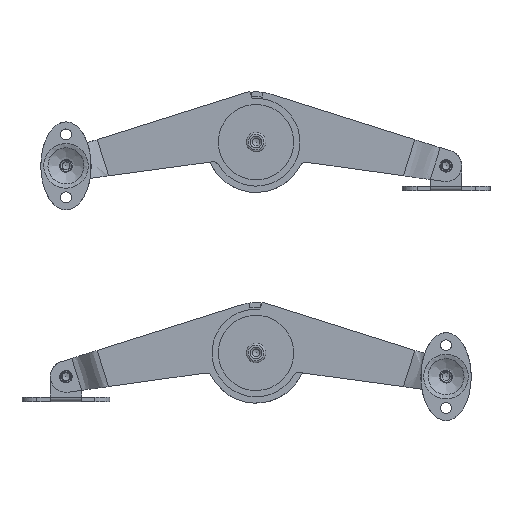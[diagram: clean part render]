
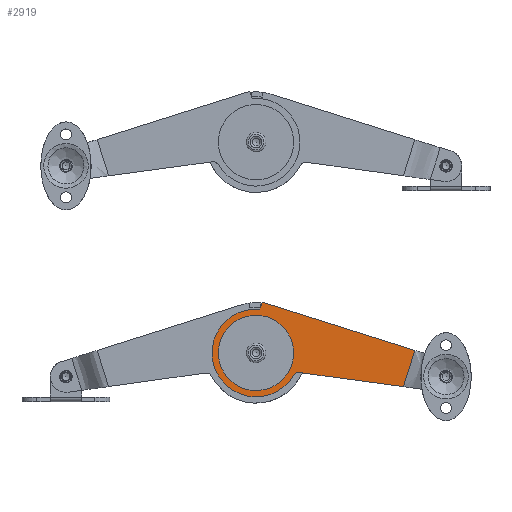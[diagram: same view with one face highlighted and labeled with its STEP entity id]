
A CAD part, front view. The second image highlights one B-rep face of the part: STEP entity #2919.
In plain terms, the highlighted planar face has unit normal (0, -1, 0) as drawn and (0, 0, -1) by its records, which use the part's own axes.
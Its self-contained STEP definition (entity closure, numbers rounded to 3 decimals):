
#445=FACE_BOUND('',#1042,.T.);
#584=CIRCLE('',#3216,2.);
#585=CIRCLE('',#3218,14.);
#588=CIRCLE('',#3222,12.);
#771=FACE_OUTER_BOUND('',#1041,.T.);
#1041=EDGE_LOOP('',(#2557,#2558,#2559,#2560,#2561,#2562));
#1042=EDGE_LOOP('',(#2563));
#1209=LINE('',#5443,#1361);
#1218=LINE('',#5477,#1370);
#1221=LINE('',#5481,#1373);
#1223=LINE('',#5484,#1375);
#1361=VECTOR('',#3944,12.135);
#1370=VECTOR('',#3969,2.325);
#1373=VECTOR('',#3974,33.261);
#1375=VECTOR('',#3978,51.);
#1593=VERTEX_POINT('',#5376);
#1594=VERTEX_POINT('',#5378);
#1595=VERTEX_POINT('',#5382);
#1598=VERTEX_POINT('',#5390);
#1604=VERTEX_POINT('',#5441);
#1605=VERTEX_POINT('',#5442);
#1614=VERTEX_POINT('',#5476);
#1911=EDGE_CURVE('',#1594,#1593,#584,.T.);
#1913=EDGE_CURVE('',#1594,#1595,#585,.T.);
#1917=EDGE_CURVE('',#1598,#1598,#588,.T.);
#1923=EDGE_CURVE('',#1604,#1605,#1209,.T.);
#1937=EDGE_CURVE('',#1595,#1614,#1218,.T.);
#1940=EDGE_CURVE('',#1605,#1593,#1221,.T.);
#1942=EDGE_CURVE('',#1614,#1604,#1223,.T.);
#2557=ORIENTED_EDGE('',*,*,#1942,.F.);
#2558=ORIENTED_EDGE('',*,*,#1937,.F.);
#2559=ORIENTED_EDGE('',*,*,#1913,.F.);
#2560=ORIENTED_EDGE('',*,*,#1911,.T.);
#2561=ORIENTED_EDGE('',*,*,#1940,.F.);
#2562=ORIENTED_EDGE('',*,*,#1923,.F.);
#2563=ORIENTED_EDGE('',*,*,#1917,.F.);
#2754=PLANE('',#3235);
#2919=ADVANCED_FACE('',(#771,#445),#2754,.F.);
#3216=AXIS2_PLACEMENT_3D('',#5379,#3922,#3923);
#3218=AXIS2_PLACEMENT_3D('',#5383,#3927,#3928);
#3222=AXIS2_PLACEMENT_3D('',#5391,#3936,#3937);
#3235=AXIS2_PLACEMENT_3D('',#5485,#3979,#3980);
#3922=DIRECTION('center_axis',(0.,0.,
1.));
#3923=DIRECTION('ref_axis',(-0.684,-0.73,0.));
#3927=DIRECTION('center_axis',(0.,0.,
1.));
#3928=DIRECTION('ref_axis',(1.,0.,0.));
#3936=DIRECTION('center_axis',(0.,0.,
-1.));
#3937=DIRECTION('ref_axis',(-1.,0.,0.));
#3944=DIRECTION('',(0.,1.,0.));
#3969=DIRECTION('',(0.,-1.,0.));
#3974=DIRECTION('',(-0.986,0.169,0.));
#3978=DIRECTION('',(1.,0.,0.));
#3979=DIRECTION('center_axis',(0.,0.,
1.));
#3980=DIRECTION('ref_axis',(1.,0.,0.));
#5376=CARTESIAN_POINT('',(15.219,1.766,-1.5));
#5378=CARTESIAN_POINT('',(13.613,3.27,-1.5));
#5379=CARTESIAN_POINT('Origin',(15.557,3.737,-1.5));
#5382=CARTESIAN_POINT('',(-3.,-13.675,-1.5));
#5383=CARTESIAN_POINT('Origin',(0.,0.,
-1.5));
#5390=CARTESIAN_POINT('',(12.,0.,-1.5));
#5391=CARTESIAN_POINT('Origin',(0.,0.,
-1.5));
#5441=CARTESIAN_POINT('',(48.,-16.,-1.5));
#5442=CARTESIAN_POINT('',(48.,-3.865,-1.5));
#5443=CARTESIAN_POINT('',(48.,-16.,-1.5));
#5476=CARTESIAN_POINT('',(-3.,-16.,-1.5));
#5477=CARTESIAN_POINT('',(-3.,-13.675,-1.5));
#5481=CARTESIAN_POINT('',(60.847,-6.072,-1.5));
#5484=CARTESIAN_POINT('',(-3.,-16.,-1.5));
#5485=CARTESIAN_POINT('Origin',(24.583,-9.806,-1.5));
